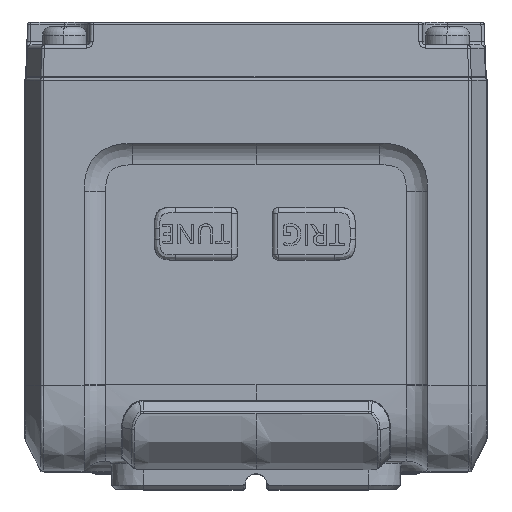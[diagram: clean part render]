
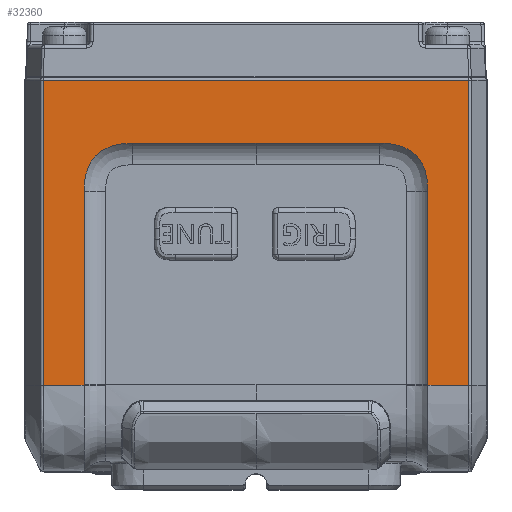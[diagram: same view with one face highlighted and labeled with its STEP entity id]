
A CAD part, top view. The second image highlights one B-rep face of the part: STEP entity #32360.
In plain terms, the highlighted planar face has unit normal (0, 0, 1).
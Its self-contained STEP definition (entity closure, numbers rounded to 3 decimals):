
#1387=DIRECTION('',(0.,-1.,0.));
#1388=VECTOR('',#1387,0.046);
#1389=CARTESIAN_POINT('',(-66.603,-13.354,
169.638));
#1390=LINE('',#1389,#1388);
#1396=DIRECTION('',(0.,-1.,0.));
#1397=VECTOR('',#1396,17.976);
#1398=CARTESIAN_POINT('',(-66.603,4.622,169.638));
#1399=LINE('',#1398,#1397);
#1400=CARTESIAN_POINT('',(-66.603,-13.354,
169.638));
#1428=DIRECTION('',(1.,0.,0.));
#1429=VECTOR('',#1428,11.5);
#1430=CARTESIAN_POINT('',(-82.603,9.122,169.638));
#1431=LINE('',#1430,#1429);
#1470=DIRECTION('',(0.,-1.,0.));
#1471=VECTOR('',#1470,28.4);
#1472=CARTESIAN_POINT('',(-102.418,15.,169.638));
#1473=LINE('',#1472,#1471);
#1474=DIRECTION('',(1.,0.,0.));
#1475=VECTOR('',#1474,39.629);
#1476=CARTESIAN_POINT('',(-102.418,15.,169.638));
#1477=LINE('',#1476,#1475);
#1478=DIRECTION('',(0.,1.,0.));
#1479=VECTOR('',#1478,28.4);
#1480=CARTESIAN_POINT('',(-62.789,-13.4,
169.638));
#1481=LINE('',#1480,#1479);
#1482=CARTESIAN_POINT('',(-66.603,4.622,169.638));
#1483=CARTESIAN_POINT('',(-66.603,4.881,169.638));
#1484=CARTESIAN_POINT('',(-66.624,5.373,169.638));
#1485=CARTESIAN_POINT('',(-66.736,6.114,169.638));
#1486=CARTESIAN_POINT('',(-66.942,6.81,169.638));
#1487=CARTESIAN_POINT('',(-67.264,7.456,169.638));
#1488=CARTESIAN_POINT('',(-67.716,8.023,169.638));
#1489=CARTESIAN_POINT('',(-68.282,8.469,169.638));
#1490=CARTESIAN_POINT('',(-68.922,8.785,169.638));
#1491=CARTESIAN_POINT('',(-69.612,8.989,169.638));
#1492=CARTESIAN_POINT('',(-70.351,9.101,169.638));
#1493=CARTESIAN_POINT('',(-70.844,9.122,169.638));
#1494=CARTESIAN_POINT('',(-71.103,9.122,169.638));
#1496=DIRECTION('',(-1.,0.,0.));
#1497=VECTOR('',#1496,11.5);
#1498=CARTESIAN_POINT('',(-82.603,9.122,169.638));
#1499=LINE('',#1498,#1497);
#1500=CARTESIAN_POINT('',(-94.103,9.122,169.638));
#1501=CARTESIAN_POINT('',(-94.362,9.122,169.638));
#1502=CARTESIAN_POINT('',(-94.854,9.101,169.638));
#1503=CARTESIAN_POINT('',(-95.595,8.989,169.638));
#1504=CARTESIAN_POINT('',(-96.292,8.783,169.638));
#1505=CARTESIAN_POINT('',(-96.938,8.461,169.638));
#1506=CARTESIAN_POINT('',(-97.504,8.009,169.638));
#1507=CARTESIAN_POINT('',(-97.951,7.443,169.638));
#1508=CARTESIAN_POINT('',(-98.267,6.804,169.638));
#1509=CARTESIAN_POINT('',(-98.471,6.113,169.638));
#1510=CARTESIAN_POINT('',(-98.583,5.374,169.638));
#1511=CARTESIAN_POINT('',(-98.603,4.881,169.638));
#1512=CARTESIAN_POINT('',(-98.603,4.622,169.638));
#1514=DIRECTION('',(0.,-1.,0.));
#1515=VECTOR('',#1514,17.976);
#1516=CARTESIAN_POINT('',(-98.603,4.622,169.638));
#1517=LINE('',#1516,#1515);
#1518=DIRECTION('',(0.,-1.,0.));
#1519=VECTOR('',#1518,0.046);
#1520=CARTESIAN_POINT('',(-98.603,-13.354,
169.638));
#1521=LINE('',#1520,#1519);
#1546=DIRECTION('',(1.,0.,0.));
#1547=VECTOR('',#1546,3.815);
#1548=CARTESIAN_POINT('',(-102.418,-13.4,
169.638));
#1549=LINE('',#1548,#1547);
#1740=CARTESIAN_POINT('',(-66.603,-13.4,
169.638));
#1742=DIRECTION('',(1.,0.,0.));
#1743=VECTOR('',#1742,3.815);
#1744=CARTESIAN_POINT('',(-66.603,-13.4,
169.638));
#1745=LINE('',#1744,#1743);
#25284=VERTEX_POINT('',#1500);
#25285=VERTEX_POINT('',#1512);
#25286=CARTESIAN_POINT('',(-98.603,-13.354,
169.638));
#25287=VERTEX_POINT('',#25286);
#25288=CARTESIAN_POINT('',(-98.603,-13.4,
169.638));
#25289=VERTEX_POINT('',#25288);
#25521=VERTEX_POINT('',#1740);
#25522=VERTEX_POINT('',#1400);
#25523=CARTESIAN_POINT('',(-66.603,4.622,
169.638));
#25524=VERTEX_POINT('',#25523);
#25525=VERTEX_POINT('',#1494);
#25549=CARTESIAN_POINT('',(-82.603,9.122,
169.638));
#25550=VERTEX_POINT('',#25549);
#27185=CARTESIAN_POINT('',(-102.418,15.,169.638));
#27186=CARTESIAN_POINT('',(-102.418,-13.4,
169.638));
#27187=VERTEX_POINT('',#27185);
#27188=VERTEX_POINT('',#27186);
#27227=CARTESIAN_POINT('',(-62.789,-13.4,
169.638));
#27228=CARTESIAN_POINT('',(-62.789,15.,169.638));
#27229=VERTEX_POINT('',#27227);
#27230=VERTEX_POINT('',#27228);
#32335=CARTESIAN_POINT('',(-103.033,-13.686,
169.638));
#32336=DIRECTION('',(0.,0.,1.));
#32337=DIRECTION('',(1.,0.,0.));
#32338=AXIS2_PLACEMENT_3D('',#32335,#32336,#32337);
#32339=PLANE('',#32338);
#32341=ORIENTED_EDGE('',*,*,#32340,.F.);
#32343=ORIENTED_EDGE('',*,*,#32342,.T.);
#32345=ORIENTED_EDGE('',*,*,#32344,.F.);
#32347=ORIENTED_EDGE('',*,*,#32346,.F.);
#32348=ORIENTED_EDGE('',*,*,#32148,.F.);
#32349=ORIENTED_EDGE('',*,*,#32168,.F.);
#32350=ORIENTED_EDGE('',*,*,#32230,.T.);
#32351=ORIENTED_EDGE('',*,*,#32249,.F.);
#32352=ORIENTED_EDGE('',*,*,#32268,.T.);
#32353=ORIENTED_EDGE('',*,*,#32329,.T.);
#32354=ORIENTED_EDGE('',*,*,#31266,.T.);
#32355=ORIENTED_EDGE('',*,*,#31287,.T.);
#32357=ORIENTED_EDGE('',*,*,#32356,.F.);
#32358=EDGE_LOOP('',(#32341,#32343,#32345,#32347,#32348,#32349,#32350,#32351,
#32352,#32353,#32354,#32355,#32357));
#32359=FACE_OUTER_BOUND('',#32358,.F.);
#32360=ADVANCED_FACE('',(#32359),#32339,.T.);
#1495=B_SPLINE_CURVE_WITH_KNOTS('',3,(#1482,#1483,#1484,#1485,#1486,#1487,#1488,
#1489,#1490,#1491,#1492,#1493,#1494),.UNSPECIFIED.,.F.,.F.,(4,1,1,1,1,1,1,1,1,1,
4),(0.,0.119,0.227,0.327,
0.417,0.501,0.585,0.674,
0.772,0.881,1.),.UNSPECIFIED.);
#1513=B_SPLINE_CURVE_WITH_KNOTS('',3,(#1500,#1501,#1502,#1503,#1504,#1505,#1506,
#1507,#1508,#1509,#1510,#1511,#1512),.UNSPECIFIED.,.F.,.F.,(4,1,1,1,1,1,1,1,1,1,
4),(0.,0.119,0.227,0.327,
0.417,0.501,0.585,0.674,
0.772,0.881,1.),.UNSPECIFIED.);
#31266=EDGE_CURVE('',#25285,#25287,#1517,.T.);
#31287=EDGE_CURVE('',#25287,#25289,#1521,.T.);
#32148=EDGE_CURVE('',#25522,#25521,#1390,.T.);
#32168=EDGE_CURVE('',#25524,#25522,#1399,.T.);
#32230=EDGE_CURVE('',#25524,#25525,#1495,.T.);
#32249=EDGE_CURVE('',#25550,#25525,#1431,.T.);
#32268=EDGE_CURVE('',#25550,#25284,#1499,.T.);
#32329=EDGE_CURVE('',#25284,#25285,#1513,.T.);
#32340=EDGE_CURVE('',#27187,#27188,#1473,.T.);
#32342=EDGE_CURVE('',#27187,#27230,#1477,.T.);
#32344=EDGE_CURVE('',#27229,#27230,#1481,.T.);
#32346=EDGE_CURVE('',#25521,#27229,#1745,.T.);
#32356=EDGE_CURVE('',#27188,#25289,#1549,.T.);
